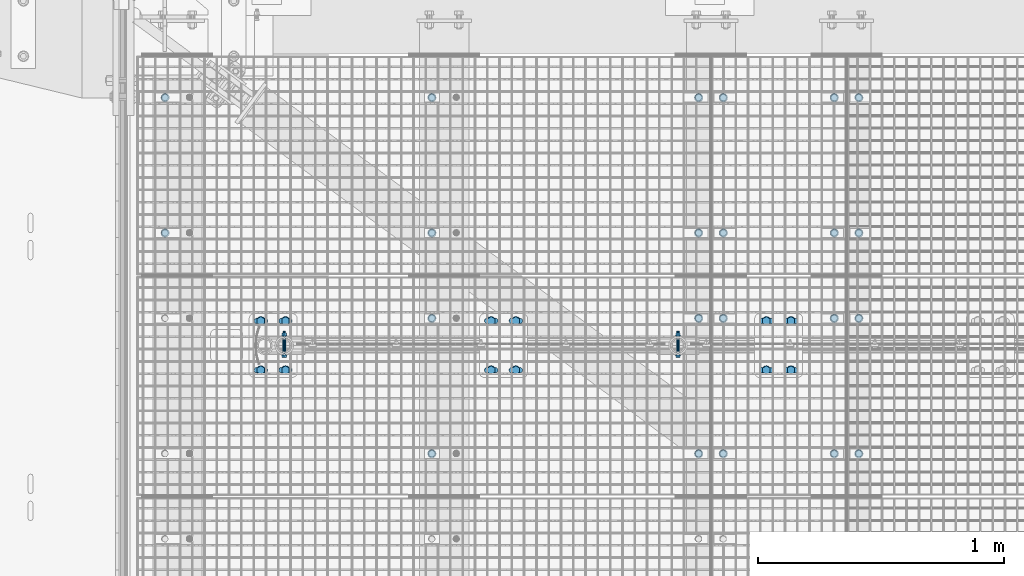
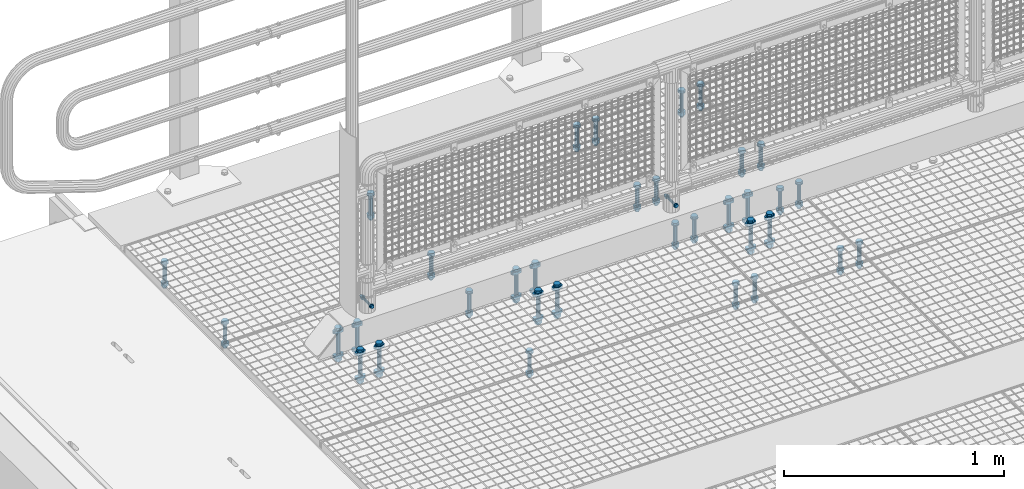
# One storey, part 31 of 1530: 16 mechanical fasteners.
"""IFC2X3 building model written with IfcOpenShell, lengths in millimetres."""

from ifc_helpers import new_model, si_unit, frame, origin_with_axes, place, context, subcontext, project, spatial, faceted_brep, source, transform, mapped, material, type_object, element, save


model = new_model("IFC2X3")

# Units and contexts
model_context = context("Model", 3, precision=1e-05, world=origin_with_axes())
body_context = subcontext(model_context, "Body", "Model", "MODEL_VIEW")
ifc_project = project(units=[si_unit("LENGTHUNIT", "METRE", prefix="MILLI"), si_unit("AREAUNIT", "SQUARE_METRE"), si_unit("VOLUMEUNIT", "CUBIC_METRE"), si_unit("MASSUNIT", "GRAM", prefix="KILO"), si_unit("TIMEUNIT", "SECOND"), si_unit("PLANEANGLEUNIT", "RADIAN"), si_unit("SOLIDANGLEUNIT", "STERADIAN"), si_unit("THERMODYNAMICTEMPERATUREUNIT", "DEGREE_CELSIUS"), si_unit("LUMINOUSINTENSITYUNIT", "LUMEN")], contexts=[model_context])

# Site, building, storey
site_placement = place(None, origin_with_axes())
site = spatial("IfcSite", under=ifc_project, at=site_placement, Name="Brattvåg", CompositionType="ELEMENT")
building_placement = place(site_placement, origin_with_axes())
building = spatial("IfcBuilding", under=site, at=building_placement, Name="Undefined", CompositionType="ELEMENT")
storey_placement = place(building_placement, origin_with_axes())
storey = spatial("IfcBuildingStorey", under=building, at=storey_placement, Name="Undefined", CompositionType="ELEMENT", Elevation=0.0)

# Mechanical fasteners
ifc_material = material(Name="8")
mechanical_fastener_type = type_object("IfcMechanicalFastenerType", Name="Bolt assembly")
shared_shape_1 = source(origin_with_axes(), body_context, "Body", "Brep", [
    faceted_brep([(17.3205080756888, -10.5, 0.0), (8.66025403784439, -10.5, 15.0), (-8.66025403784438, -10.5, 15.0), (-17.3205080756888, -10.5, 2.12115047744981e-15), (-8.66025403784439, -10.5, -15.0), (8.66025403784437, -10.5, -15.0), (8.66025403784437, 2.0, -15.0), (-8.66025403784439, 2.0, -15.0), (-17.3205080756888, 2.0, 2.12115047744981e-15), (-8.66025403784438, 2.0, 15.0), (8.66025403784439, 2.0, 15.0), (17.3205080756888, 2.0, 0.0), (10.0, 2.0, 0.0), (8.66025403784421, 2.0, 5.0000000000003), (4.9999999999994, 2.0, 8.66025403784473), (-1.03633598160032e-12, 2.0, 10.0), (-5.00000000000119, 2.0, 8.6602540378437), (-8.66025403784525, 2.0, 4.99999999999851), (-10.0, 2.0, -2.07267196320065e-12), (-8.66025403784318, 2.0, -5.00000000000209), (-4.99999999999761, 2.0, -8.66025403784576), (3.09790571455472e-12, 2.0, -10.0), (5.00000000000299, 2.0, -8.66025403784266), (8.66025403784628, 2.0, -4.99999999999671), (8.66025403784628, 142.0, -4.99999999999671), (5.00000000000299, 142.0, -8.66025403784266), (3.09790571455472e-12, 142.0, -10.0), (-4.99999999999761, 142.0, -8.66025403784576), (-8.66025403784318, 142.0, -5.00000000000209), (-10.0, 142.0, -2.07267196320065e-12), (-8.66025403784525, 142.0, 4.99999999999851), (-5.00000000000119, 142.0, 8.6602540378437), (-1.03633598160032e-12, 142.0, 10.0), (4.9999999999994, 142.0, 8.66025403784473), (8.66025403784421, 142.0, 5.0000000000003), (10.0, 142.0, 0.0), (18.5, 2.0, 0.0), (16.0214699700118, 2.0, 9.25000000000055), (9.2499999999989, 2.0, 16.0214699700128), (-1.9172215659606e-12, 2.0, 18.5), (-9.25000000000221, 2.0, 16.0214699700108), (-16.0214699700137, 2.0, 9.24999999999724), (-18.5, 2.0, -3.83444313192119e-12), (-16.0214699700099, 2.0, -9.25000000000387), (-9.24999999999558, 2.0, -16.0214699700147), (5.73112557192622e-12, 2.0, -18.5), (9.25000000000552, 2.0, -16.0214699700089), (16.0214699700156, 2.0, -9.24999999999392), (16.0214699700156, 5.0, -9.24999999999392), (9.25000000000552, 5.0, -16.0214699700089), (5.73112557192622e-12, 5.0, -18.5), (-9.24999999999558, 5.0, -16.0214699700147), (-16.0214699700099, 5.0, -9.25000000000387), (-18.5, 5.0, -3.83444313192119e-12), (-16.0214699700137, 5.0, 9.24999999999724), (-9.25000000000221, 5.0, 16.0214699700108), (-1.9172215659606e-12, 5.0, 18.5), (9.2499999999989, 5.0, 16.0214699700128), (16.0214699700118, 5.0, 9.25000000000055), (18.5, 5.0, 0.0), (18.5, 109.998931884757, 0.0), (16.0214699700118, 109.998931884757, 9.25000000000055), (9.2499999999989, 109.998931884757, 16.0214699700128), (-1.9172215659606e-12, 109.998931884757, 18.5), (-9.25000000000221, 109.998931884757, 16.0214699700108), (-16.0214699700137, 109.998931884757, 9.24999999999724), (-18.5, 109.998931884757, -3.83444313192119e-12), (-16.0214699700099, 109.998931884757, -9.25000000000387), (-9.24999999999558, 109.998931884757, -16.0214699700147), (5.73112557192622e-12, 109.998931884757, -18.5), (9.25000000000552, 109.998931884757, -16.0214699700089), (16.0214699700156, 109.998931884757, -9.24999999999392), (16.0214699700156, 112.998931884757, -9.24999999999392), (9.25000000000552, 112.998931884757, -16.0214699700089), (5.73112557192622e-12, 112.998931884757, -18.5), (-9.24999999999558, 112.998931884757, -16.0214699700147), (-16.0214699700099, 112.998931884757, -9.25000000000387), (-18.5, 112.998931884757, -3.83444313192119e-12), (-16.0214699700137, 112.998931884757, 9.24999999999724), (-9.25000000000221, 112.998931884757, 16.0214699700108), (-1.9172215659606e-12, 112.998931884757, 18.5), (9.2499999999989, 112.998931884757, 16.0214699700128), (16.0214699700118, 112.998931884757, 9.25000000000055), (18.5, 112.998931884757, 0.0), (17.3205080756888, 112.998931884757, 0.0), (8.66025403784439, 112.998931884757, 15.0), (-8.66025403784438, 112.998931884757, 15.0), (-17.3205080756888, 112.998931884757, 2.12115047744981e-15), (-8.66025403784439, 112.998931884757, -15.0), (8.66025403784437, 112.998931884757, -15.0), (8.66025403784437, 130.998931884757, -15.0), (-8.66025403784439, 130.998931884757, -15.0), (-17.3205080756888, 130.998931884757, 2.12115047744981e-15), (-8.66025403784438, 130.998931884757, 15.0), (8.66025403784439, 130.998931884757, 15.0), (17.3205080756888, 130.998931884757, 0.0)], [[[0, 1, 2, 3, 4, 5]], [[6, 7, 8, 9, 10, 11]], [[0, 11, 10, 1]], [[1, 10, 9, 2]], [[2, 9, 8, 3]], [[3, 8, 7, 4]], [[4, 7, 6, 5]], [[5, 6, 11, 0]], [[12, 13, 14, 15, 16, 17, 18, 19, 20, 21, 22, 23]], [[24, 25, 26, 27, 28, 29, 30, 31, 32, 33, 34, 35]], [[12, 35, 34, 13]], [[13, 34, 33, 14]], [[14, 33, 32, 15]], [[15, 32, 31, 16]], [[16, 31, 30, 17]], [[17, 30, 29, 18]], [[18, 29, 28, 19]], [[19, 28, 27, 20]], [[20, 27, 26, 21]], [[21, 26, 25, 22]], [[22, 25, 24, 23]], [[23, 24, 35, 12]], [[36, 37, 38, 39, 40, 41, 42, 43, 44, 45, 46, 47]], [[48, 49, 50, 51, 52, 53, 54, 55, 56, 57, 58, 59]], [[36, 59, 58, 37]], [[37, 58, 57, 38]], [[38, 57, 56, 39]], [[39, 56, 55, 40]], [[40, 55, 54, 41]], [[41, 54, 53, 42]], [[42, 53, 52, 43]], [[43, 52, 51, 44]], [[44, 51, 50, 45]], [[45, 50, 49, 46]], [[46, 49, 48, 47]], [[47, 48, 59, 36]], [[60, 61, 62, 63, 64, 65, 66, 67, 68, 69, 70, 71]], [[72, 73, 74, 75, 76, 77, 78, 79, 80, 81, 82, 83]], [[60, 83, 82, 61]], [[61, 82, 81, 62]], [[62, 81, 80, 63]], [[63, 80, 79, 64]], [[64, 79, 78, 65]], [[65, 78, 77, 66]], [[66, 77, 76, 67]], [[67, 76, 75, 68]], [[68, 75, 74, 69]], [[69, 74, 73, 70]], [[70, 73, 72, 71]], [[71, 72, 83, 60]], [[84, 85, 86, 87, 88, 89]], [[90, 91, 92, 93, 94, 95]], [[84, 95, 94, 85]], [[85, 94, 93, 86]], [[86, 93, 92, 87]], [[87, 92, 91, 88]], [[88, 91, 90, 89]], [[89, 90, 95, 84]]]),
])
for number, where, z_axis, x_axis, name in (
    (1, (2956.00477935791, 8121.91931152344, -25.0), (-1.0, 1.99999855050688e-09, 0.0), (0.0, 1.0, 0.0), "Bolt assembly"),
    (2, (2956.00477935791, 7224.91931152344, -25.0), (-1.0, 1.99999855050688e-09, 0.0), (0.0, 1.0, 0.0), "Bolt assembly"),
    (3, (2856.01522064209, 8121.91931152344, -25.0), (-1.0, 1.99999855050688e-09, 0.0), (0.0, 1.0, 0.0), "Bolt assembly"),
    (4, (2405.00477935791, 8121.91931152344, -25.0), (-1.0, 1.99999855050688e-09, 0.0), (0.0, 1.0, 0.0), "Bolt assembly"),
    (5, (2856.01522064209, 7224.91931152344, -25.0), (-1.0, 1.99999855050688e-09, 0.0), (0.0, 1.0, 0.0), "Bolt assembly"),
    (6, (2405.00477935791, 7224.91931152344, -25.0), (-1.0, 1.99999855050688e-09, 0.0), (0.0, 1.0, 0.0), "Bolt assembly"),
    (7, (137.004779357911, 8121.91931152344, -25.0), (-1.0, 1.99999855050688e-09, 0.0), (0.0, 1.0, 0.0), "Bolt assembly"),
    (8, (1221.01192543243, 8121.99, -25.0), (-1.0, 1.99999855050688e-09, 0.0), (0.0, 1.0, 0.0), "Bolt assembly"),
    (9, (2305.01487731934, 8121.9204864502, -25.0), (-1.0, 1.99999855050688e-09, 0.0), (0.0, 1.0, 0.0), "Bolt assembly"),
    (10, (1221.01192543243, 7224.99, -25.0), (-1.0, 1.99999855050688e-09, 0.0), (0.0, 1.0, 0.0), "Bolt assembly"),
    (11, (2305.01487731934, 7224.9204864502, -25.0), (-1.0, 1.99999855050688e-09, 0.0), (0.0, 1.0, 0.0), "Bolt assembly"),
):
    element("IfcMechanicalFastener", number, at=place(storey_placement, frame(where, z_axis=z_axis, x_axis=x_axis)), inside=storey, type_object=mechanical_fastener_type, material=ifc_material, Name=name, NominalDiameter=20.0, NominalLength=140.0, context=body_context, shape_type="MappedRepresentation", body=[
        mapped(shared_shape_1, transform((0.0, 0.0, 0.0))),
        mapped(shared_shape_1, transform((549.999999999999, 0.0, 0.0))),
    ])
shared_shape_2 = source(origin_with_axes(), body_context, "Body", "Brep", [
    faceted_brep([(17.3205080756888, -15.5000000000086, 0.0), (8.66025403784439, -15.5000000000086, 15.0), (-8.66025403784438, -15.5000000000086, 15.0), (-17.3205080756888, -15.5000000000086, 2.12115047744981e-15), (-8.66025403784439, -15.5000000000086, -15.0), (8.66025403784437, -15.5000000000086, -15.0), (8.66025403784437, -3.00000000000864, -15.0), (-8.66025403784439, -3.00000000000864, -15.0), (-17.3205080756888, -3.00000000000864, 2.12115047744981e-15), (-8.66025403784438, -3.00000000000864, 15.0), (8.66025403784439, -3.00000000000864, 15.0), (17.3205080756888, -3.00000000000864, 0.0), (10.0, -3.00000000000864, 0.0), (8.66025403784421, -3.00000000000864, 5.0000000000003), (4.9999999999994, -3.00000000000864, 8.66025403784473), (-1.03633598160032e-12, -3.00000000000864, 10.0), (-5.00000000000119, -3.00000000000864, 8.6602540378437), (-8.66025403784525, -3.00000000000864, 4.99999999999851), (-10.0, -3.00000000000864, -2.07267196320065e-12), (-8.66025403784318, -3.00000000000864, -5.00000000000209), (-4.99999999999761, -3.00000000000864, -8.66025403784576), (3.09790571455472e-12, -3.00000000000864, -10.0), (5.00000000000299, -3.00000000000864, -8.66025403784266), (8.66025403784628, -3.00000000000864, -4.99999999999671), (8.66025403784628, 176.999999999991, -4.99999999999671), (5.00000000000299, 176.999999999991, -8.66025403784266), (3.09790571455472e-12, 176.999999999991, -10.0), (-4.99999999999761, 176.999999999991, -8.66025403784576), (-8.66025403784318, 176.999999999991, -5.00000000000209), (-10.0, 176.999999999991, -2.07267196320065e-12), (-8.66025403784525, 176.999999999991, 4.99999999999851), (-5.00000000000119, 176.999999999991, 8.6602540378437), (-1.03633598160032e-12, 176.999999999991, 10.0), (4.9999999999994, 176.999999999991, 8.66025403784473), (8.66025403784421, 176.999999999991, 5.0000000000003), (10.0, 176.999999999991, 0.0), (18.5, -3.00000000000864, 0.0), (16.0214699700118, -3.00000000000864, 9.25000000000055), (9.2499999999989, -3.00000000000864, 16.0214699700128), (-1.9172215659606e-12, -3.00000000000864, 18.5), (-9.25000000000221, -3.00000000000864, 16.0214699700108), (-16.0214699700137, -3.00000000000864, 9.24999999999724), (-18.5, -3.00000000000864, -3.83444313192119e-12), (-16.0214699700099, -3.00000000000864, -9.25000000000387), (-9.24999999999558, -3.00000000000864, -16.0214699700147), (5.73112557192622e-12, -3.00000000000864, -18.5), (9.25000000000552, -3.00000000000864, -16.0214699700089), (16.0214699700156, -3.00000000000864, -9.24999999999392), (16.0214699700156, -8.64019966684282e-12, -9.24999999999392), (9.25000000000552, -8.64019966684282e-12, -16.0214699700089), (5.73112557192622e-12, -8.64019966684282e-12, -18.5), (-9.24999999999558, -8.64019966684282e-12, -16.0214699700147), (-16.0214699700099, -8.64019966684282e-12, -9.25000000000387), (-18.5, -8.64019966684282e-12, -3.83444313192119e-12), (-16.0214699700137, -8.64019966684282e-12, 9.24999999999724), (-9.25000000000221, -8.64019966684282e-12, 16.0214699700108), (-1.9172215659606e-12, -8.64019966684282e-12, 18.5), (9.2499999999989, -8.64019966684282e-12, 16.0214699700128), (16.0214699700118, -8.64019966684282e-12, 9.25000000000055), (18.5, -8.64019966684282e-12, 0.0), (18.5, 149.999999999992, 0.0), (16.0214699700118, 149.999999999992, 9.25000000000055), (9.2499999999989, 149.999999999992, 16.0214699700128), (-1.9172215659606e-12, 149.999999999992, 18.5), (-9.25000000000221, 149.999999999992, 16.0214699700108), (-16.0214699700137, 149.999999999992, 9.24999999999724), (-18.5, 149.999999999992, -3.83444313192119e-12), (-16.0214699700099, 149.999999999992, -9.25000000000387), (-9.24999999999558, 149.999999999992, -16.0214699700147), (5.73112557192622e-12, 149.999999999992, -18.5), (9.25000000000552, 149.999999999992, -16.0214699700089), (16.0214699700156, 149.999999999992, -9.24999999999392), (16.0214699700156, 152.999999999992, -9.24999999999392), (9.25000000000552, 152.999999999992, -16.0214699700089), (5.73112557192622e-12, 152.999999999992, -18.5), (-9.24999999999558, 152.999999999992, -16.0214699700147), (-16.0214699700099, 152.999999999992, -9.25000000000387), (-18.5, 152.999999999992, -3.83444313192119e-12), (-16.0214699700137, 152.999999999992, 9.24999999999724), (-9.25000000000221, 152.999999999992, 16.0214699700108), (-1.9172215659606e-12, 152.999999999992, 18.5), (9.2499999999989, 152.999999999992, 16.0214699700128), (16.0214699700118, 152.999999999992, 9.25000000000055), (18.5, 152.999999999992, 0.0), (17.3205080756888, 152.999999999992, 0.0), (8.66025403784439, 152.999999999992, 15.0), (-8.66025403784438, 152.999999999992, 15.0), (-17.3205080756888, 152.999999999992, 2.12115047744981e-15), (-8.66025403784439, 152.999999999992, -15.0), (8.66025403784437, 152.999999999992, -15.0), (8.66025403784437, 170.999999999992, -15.0), (-8.66025403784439, 170.999999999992, -15.0), (-17.3205080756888, 170.999999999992, 2.12115047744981e-15), (-8.66025403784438, 170.999999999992, 15.0), (8.66025403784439, 170.999999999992, 15.0), (17.3205080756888, 170.999999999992, 0.0)], [[[0, 1, 2, 3, 4, 5]], [[6, 7, 8, 9, 10, 11]], [[0, 11, 10, 1]], [[1, 10, 9, 2]], [[2, 9, 8, 3]], [[3, 8, 7, 4]], [[4, 7, 6, 5]], [[5, 6, 11, 0]], [[12, 13, 14, 15, 16, 17, 18, 19, 20, 21, 22, 23]], [[24, 25, 26, 27, 28, 29, 30, 31, 32, 33, 34, 35]], [[12, 35, 34, 13]], [[13, 34, 33, 14]], [[14, 33, 32, 15]], [[15, 32, 31, 16]], [[16, 31, 30, 17]], [[17, 30, 29, 18]], [[18, 29, 28, 19]], [[19, 28, 27, 20]], [[20, 27, 26, 21]], [[21, 26, 25, 22]], [[22, 25, 24, 23]], [[23, 24, 35, 12]], [[36, 37, 38, 39, 40, 41, 42, 43, 44, 45, 46, 47]], [[48, 49, 50, 51, 52, 53, 54, 55, 56, 57, 58, 59]], [[36, 59, 58, 37]], [[37, 58, 57, 38]], [[38, 57, 56, 39]], [[39, 56, 55, 40]], [[40, 55, 54, 41]], [[41, 54, 53, 42]], [[42, 53, 52, 43]], [[43, 52, 51, 44]], [[44, 51, 50, 45]], [[45, 50, 49, 46]], [[46, 49, 48, 47]], [[47, 48, 59, 36]], [[60, 61, 62, 63, 64, 65, 66, 67, 68, 69, 70, 71]], [[72, 73, 74, 75, 76, 77, 78, 79, 80, 81, 82, 83]], [[60, 83, 82, 61]], [[61, 82, 81, 62]], [[62, 81, 80, 63]], [[63, 80, 79, 64]], [[64, 79, 78, 65]], [[65, 78, 77, 66]], [[66, 77, 76, 67]], [[67, 76, 75, 68]], [[68, 75, 74, 69]], [[69, 74, 73, 70]], [[70, 73, 72, 71]], [[71, 72, 83, 60]], [[84, 85, 86, 87, 88, 89]], [[90, 91, 92, 93, 94, 95]], [[84, 95, 94, 85]], [[85, 94, 93, 86]], [[86, 93, 92, 87]], [[87, 92, 91, 88]], [[88, 91, 90, 89]], [[89, 90, 95, 84]]]),
    faceted_brep([(11.0, 0.0999999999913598, 16.5), (10.162674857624, 0.0999999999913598, 20.7095177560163), (7.77817459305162, 0.0999999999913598, 24.2781745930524), (-1.13996957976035e-12, 0.0999999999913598, 27.5), (-5.50000000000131, 0.0999999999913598, 26.0262794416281), (-9.52627944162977, 0.0999999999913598, 21.9999999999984), (-11.0, 0.0999999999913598, 16.4999999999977), (-11.0, 0.0999999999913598, -16.5000000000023), (-9.5262794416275, 0.0999999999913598, -22.0000000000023), (-5.49999999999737, 0.0999999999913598, -26.0262794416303), (3.40769628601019e-12, 0.0999999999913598, -27.5), (5.50000000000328, 0.0999999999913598, -26.0262794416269), (9.52627944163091, 0.0999999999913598, -21.9999999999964), (11.0, 0.0999999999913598, -16.4999999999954), (11.0, 15.0999999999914, -16.4999999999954), (9.52627944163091, 15.0999999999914, -21.9999999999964), (5.50000000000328, 15.0999999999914, -26.0262794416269), (3.40769628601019e-12, 15.0999999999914, -27.5), (-5.49999999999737, 15.0999999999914, -26.0262794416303), (-9.5262794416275, 15.0999999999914, -22.0000000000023), (-11.0, 15.0999999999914, -16.5000000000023), (-11.0, 15.0999999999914, 16.4999999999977), (-9.52627944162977, 15.0999999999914, 21.9999999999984), (-5.50000000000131, 15.0999999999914, 26.0262794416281), (-1.13996957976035e-12, 15.0999999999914, 27.5), (4.2095177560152, 15.0999999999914, 26.6626748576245), (7.77817459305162, 15.0999999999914, 24.2781745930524), (10.162674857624, 15.0999999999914, 20.7095177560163), (11.0, 15.0999999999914, 16.5), (4.2095177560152, 0.0999999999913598, 26.6626748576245), (11.0, 134.899999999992, 16.5), (10.162674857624, 134.899999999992, 20.7095177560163), (7.77817459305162, 134.899999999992, 24.2781745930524), (-1.13996957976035e-12, 134.899999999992, 27.5), (-5.50000000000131, 134.899999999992, 26.0262794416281), (-9.52627944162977, 134.899999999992, 21.9999999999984), (-11.0, 134.899999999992, 16.4999999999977), (-11.0, 134.899999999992, -16.5000000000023), (-9.5262794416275, 134.899999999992, -22.0000000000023), (-5.49999999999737, 134.899999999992, -26.0262794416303), (3.40769628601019e-12, 134.899999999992, -27.5), (5.50000000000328, 134.899999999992, -26.0262794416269), (9.52627944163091, 134.899999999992, -21.9999999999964), (11.0, 134.899999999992, -16.4999999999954), (11.0, 149.999999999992, -16.4999999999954), (9.52627944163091, 149.999999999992, -21.9999999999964), (5.50000000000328, 149.999999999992, -26.0262794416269), (3.40769628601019e-12, 149.999999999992, -27.5), (-5.49999999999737, 149.999999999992, -26.0262794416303), (-9.5262794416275, 149.999999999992, -22.0000000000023), (-11.0, 149.999999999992, -16.5000000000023), (-11.0, 149.999999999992, 16.4999999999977), (-9.52627944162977, 149.999999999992, 21.9999999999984), (-5.50000000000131, 149.999999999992, 26.0262794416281), (-1.13996957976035e-12, 149.999999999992, 27.5), (4.2095177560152, 149.999999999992, 26.6626748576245), (7.77817459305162, 149.999999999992, 24.2781745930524), (10.162674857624, 149.999999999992, 20.7095177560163), (11.0, 149.999999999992, 16.5), (4.2095177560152, 134.899999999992, 26.6626748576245)], [[[0, 1, 2, 3, 4, 5, 6, 7, 8, 9, 10, 11, 12, 13]], [[14, 15, 16, 17, 18, 19, 20, 21, 22, 23, 24, 25, 26, 27, 28]], [[0, 28, 27, 1]], [[1, 27, 26, 2]], [[2, 26, 25, 29]], [[29, 25, 24, 3]], [[3, 24, 23, 4]], [[4, 23, 22, 5]], [[5, 22, 21, 6]], [[6, 21, 20, 7]], [[7, 20, 19, 8]], [[8, 19, 18, 9]], [[9, 18, 17, 10]], [[10, 17, 16, 11]], [[11, 16, 15, 12]], [[12, 15, 14, 13]], [[13, 14, 28, 0]], [[30, 31, 32, 33, 34, 35, 36, 37, 38, 39, 40, 41, 42, 43]], [[44, 45, 46, 47, 48, 49, 50, 51, 52, 53, 54, 55, 56, 57, 58]], [[30, 58, 57, 31]], [[31, 57, 56, 32]], [[32, 56, 55, 59]], [[59, 55, 54, 33]], [[33, 54, 53, 34]], [[34, 53, 52, 35]], [[35, 52, 51, 36]], [[36, 51, 50, 37]], [[37, 50, 49, 38]], [[38, 49, 48, 39]], [[39, 48, 47, 40]], [[40, 47, 46, 41]], [[41, 46, 45, 42]], [[42, 45, 44, 43]], [[43, 44, 58, 30]]]),
])
for number, where, z_axis, x_axis, name in (
    (12, (575.999679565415, 7564.4994392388, 15.0000839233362), (-1.0, 1.99999855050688e-09, 0.0), (0.0, 1.0, 0.0), "Bolt assembly"),
    (13, (1511.99967956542, 7564.4994392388, 15.0000839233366), (-1.0, 1.99999855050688e-09, 0.0), (0.0, 1.0, 0.0), "Bolt assembly"),
    (14, (2629.99967956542, 7564.4994392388, 15.0000839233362), (-1.0, 1.99999855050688e-09, 0.0), (0.0, 1.0, 0.0), "Bolt assembly"),
):
    element("IfcMechanicalFastener", number, at=place(storey_placement, frame(where, z_axis=z_axis, x_axis=x_axis)), inside=storey, type_object=mechanical_fastener_type, material=ifc_material, Name=name, NominalDiameter=20.0, NominalLength=180.0, context=body_context, shape_type="MappedRepresentation", body=[
        mapped(shared_shape_2, transform((0.0, 0.0, -50.0))),
        mapped(shared_shape_2, transform((200.0, 0.0, -50.0))),
        mapped(shared_shape_2, transform((0.0, 0.0, 50.0))),
        mapped(shared_shape_2, transform((200.0, 0.0, 50.0))),
    ])
shared_shape_3 = source(origin_with_axes(), body_context, "Body", "Brep", [
    faceted_brep([(10.3923048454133, -9.99524588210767, 0.0), (5.19615242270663, -9.99524588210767, 9.0), (-5.19615242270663, -9.99524588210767, 9.0), (-10.3923048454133, -9.99524588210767, 1.27269028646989e-15), (-5.19615242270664, -9.99524588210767, -9.0), (5.19615242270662, -9.99524588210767, -9.0), (5.19615242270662, -2.49524588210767, -9.0), (-5.19615242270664, -2.49524588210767, -9.0), (-10.3923048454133, -2.49524588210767, 1.27269028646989e-15), (-5.19615242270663, -2.49524588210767, 9.0), (5.19615242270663, -2.49524588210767, 9.0), (10.3923048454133, -2.49524588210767, 0.0), (6.0, -2.49524588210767, 0.0), (5.19615242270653, -2.49524588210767, 3.00000000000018), (2.99999999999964, -2.49524588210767, 5.19615242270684), (-6.21801588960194e-13, -2.49524588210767, 6.0), (-3.00000000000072, -2.49524588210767, 5.19615242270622), (-5.19615242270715, -2.49524588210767, 2.9999999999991), (-6.0, -2.49524588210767, -1.24360317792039e-12), (-5.19615242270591, -2.49524588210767, -3.00000000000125), (-2.99999999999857, -2.49524588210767, -5.19615242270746), (1.85874342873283e-12, -2.49524588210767, -6.0), (3.00000000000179, -2.49524588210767, -5.1961524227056), (5.19615242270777, -2.49524588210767, -2.99999999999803), (5.19615242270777, 97.5047541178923, -2.99999999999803), (3.00000000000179, 97.5047541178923, -5.1961524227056), (1.85874342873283e-12, 97.5047541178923, -6.0), (-2.99999999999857, 97.5047541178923, -5.19615242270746), (-5.19615242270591, 97.5047541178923, -3.00000000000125), (-6.0, 97.5047541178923, -1.24360317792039e-12), (-5.19615242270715, 97.5047541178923, 2.9999999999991), (-3.00000000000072, 97.5047541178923, 5.19615242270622), (-6.21801588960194e-13, 97.5047541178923, 6.0), (2.99999999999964, 97.5047541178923, 5.19615242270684), (5.19615242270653, 97.5047541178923, 3.00000000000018), (6.0, 97.5047541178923, 0.0), (12.0, -2.49524588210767, 0.0), (10.3923048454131, -2.49524588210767, 6.00000000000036), (5.99999999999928, -2.49524588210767, 10.3923048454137), (-1.24360317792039e-12, -2.49524588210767, 12.0), (-6.00000000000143, -2.49524588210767, 10.3923048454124), (-10.3923048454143, -2.49524588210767, 5.99999999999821), (-12.0, -2.49524588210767, -2.48720635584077e-12), (-10.3923048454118, -2.49524588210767, -6.00000000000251), (-5.99999999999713, -2.49524588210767, -10.3923048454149), (3.71748685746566e-12, -2.49524588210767, -12.0), (6.00000000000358, -2.49524588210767, -10.3923048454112), (10.3923048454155, -2.49524588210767, -5.99999999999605), (10.3923048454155, 0.00475411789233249, -5.99999999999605), (6.00000000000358, 0.00475411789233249, -10.3923048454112), (3.71748685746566e-12, 0.00475411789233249, -12.0), (-5.99999999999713, 0.00475411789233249, -10.3923048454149), (-10.3923048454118, 0.00475411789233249, -6.00000000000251), (-12.0, 0.00475411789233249, -2.48720635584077e-12), (-10.3923048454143, 0.00475411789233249, 5.99999999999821), (-6.00000000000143, 0.00475411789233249, 10.3923048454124), (-1.24360317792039e-12, 0.00475411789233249, 12.0), (5.99999999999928, 0.00475411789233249, 10.3923048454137), (10.3923048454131, 0.00475411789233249, 6.00000000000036), (12.0, 0.00475411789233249, 0.0), (12.0, 76.1029826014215, 0.0), (10.3923048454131, 76.1029826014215, 6.00000000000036), (5.99999999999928, 76.1029826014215, 10.3923048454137), (-1.24360317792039e-12, 76.1029826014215, 12.0), (-6.00000000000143, 76.1029826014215, 10.3923048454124), (-10.3923048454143, 76.1029826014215, 5.99999999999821), (-12.0, 76.1029826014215, -2.48720635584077e-12), (-10.3923048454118, 76.1029826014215, -6.00000000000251), (-5.99999999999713, 76.1029826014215, -10.3923048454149), (3.71748685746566e-12, 76.1029826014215, -12.0), (6.00000000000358, 76.1029826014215, -10.3923048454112), (10.3923048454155, 76.1029826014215, -5.99999999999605), (10.3923048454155, 78.6029826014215, -5.99999999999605), (6.00000000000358, 78.6029826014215, -10.3923048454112), (3.71748685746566e-12, 78.6029826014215, -12.0), (-5.99999999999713, 78.6029826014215, -10.3923048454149), (-10.3923048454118, 78.6029826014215, -6.00000000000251), (-12.0, 78.6029826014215, -2.48720635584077e-12), (-10.3923048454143, 78.6029826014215, 5.99999999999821), (-6.00000000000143, 78.6029826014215, 10.3923048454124), (-1.24360317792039e-12, 78.6029826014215, 12.0), (5.99999999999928, 78.6029826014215, 10.3923048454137), (10.3923048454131, 78.6029826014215, 6.00000000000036), (12.0, 78.6029826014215, 0.0), (10.3923048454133, 78.6029826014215, 0.0), (5.19615242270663, 78.6029826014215, 9.0), (-5.19615242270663, 78.6029826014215, 9.0), (-10.3923048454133, 78.6029826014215, 1.27269028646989e-15), (-5.19615242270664, 78.6029826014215, -9.0), (5.19615242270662, 78.6029826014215, -9.0), (5.19615242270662, 89.4029827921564, -9.0), (-5.19615242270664, 89.4029827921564, -9.0), (-10.3923048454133, 89.4029827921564, 1.27269028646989e-15), (-5.19615242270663, 89.4029827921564, 9.0), (5.19615242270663, 89.4029827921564, 9.0), (10.3923048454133, 89.4029827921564, 0.0)], [[[0, 1, 2, 3, 4, 5]], [[6, 7, 8, 9, 10, 11]], [[0, 11, 10, 1]], [[1, 10, 9, 2]], [[2, 9, 8, 3]], [[3, 8, 7, 4]], [[4, 7, 6, 5]], [[5, 6, 11, 0]], [[12, 13, 14, 15, 16, 17, 18, 19, 20, 21, 22, 23]], [[24, 25, 26, 27, 28, 29, 30, 31, 32, 33, 34, 35]], [[12, 35, 34, 13]], [[13, 34, 33, 14]], [[14, 33, 32, 15]], [[15, 32, 31, 16]], [[16, 31, 30, 17]], [[17, 30, 29, 18]], [[18, 29, 28, 19]], [[19, 28, 27, 20]], [[20, 27, 26, 21]], [[21, 26, 25, 22]], [[22, 25, 24, 23]], [[23, 24, 35, 12]], [[36, 37, 38, 39, 40, 41, 42, 43, 44, 45, 46, 47]], [[48, 49, 50, 51, 52, 53, 54, 55, 56, 57, 58, 59]], [[36, 59, 58, 37]], [[37, 58, 57, 38]], [[38, 57, 56, 39]], [[39, 56, 55, 40]], [[40, 55, 54, 41]], [[41, 54, 53, 42]], [[42, 53, 52, 43]], [[43, 52, 51, 44]], [[44, 51, 50, 45]], [[45, 50, 49, 46]], [[46, 49, 48, 47]], [[47, 48, 59, 36]], [[60, 61, 62, 63, 64, 65, 66, 67, 68, 69, 70, 71]], [[72, 73, 74, 75, 76, 77, 78, 79, 80, 81, 82, 83]], [[60, 83, 82, 61]], [[61, 82, 81, 62]], [[62, 81, 80, 63]], [[63, 80, 79, 64]], [[64, 79, 78, 65]], [[65, 78, 77, 66]], [[66, 77, 76, 67]], [[67, 76, 75, 68]], [[68, 75, 74, 69]], [[69, 74, 73, 70]], [[70, 73, 72, 71]], [[71, 72, 83, 60]], [[84, 85, 86, 87, 88, 89]], [[90, 91, 92, 93, 94, 95]], [[84, 95, 94, 85]], [[85, 94, 93, 86]], [[86, 93, 92, 87]], [[87, 92, 91, 88]], [[88, 91, 90, 89]], [[89, 90, 95, 84]]]),
    faceted_brep([(6.5, 0.104754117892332, 0.0), (5.62916512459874, 0.104754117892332, 3.25000000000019), (3.24999999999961, 0.104754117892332, 5.62916512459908), (-6.7361838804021e-13, 0.104754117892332, 6.5), (-3.25000000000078, 0.104754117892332, 5.6291651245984), (-5.62916512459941, 0.104754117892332, 3.24999999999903), (-6.5, 0.104754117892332, -1.34723677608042e-12), (-5.62916512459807, 0.104754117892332, -3.25000000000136), (-3.24999999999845, 0.104754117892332, -5.62916512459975), (2.01363871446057e-12, 0.104754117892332, -6.5), (3.25000000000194, 0.104754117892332, -5.62916512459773), (5.62916512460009, 0.104754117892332, -3.24999999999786), (5.62916512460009, 76.2029826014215, -3.24999999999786), (3.25000000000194, 76.2029826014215, -5.62916512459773), (2.01363871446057e-12, 76.2029826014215, -6.5), (-3.24999999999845, 76.2029826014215, -5.62916512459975), (-5.62916512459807, 76.2029826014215, -3.25000000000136), (-6.5, 76.2029826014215, -1.34723677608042e-12), (-5.62916512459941, 76.2029826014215, 3.24999999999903), (-3.25000000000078, 76.2029826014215, 5.6291651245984), (-6.7361838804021e-13, 76.2029826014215, 6.5), (3.24999999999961, 76.2029826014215, 5.62916512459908), (5.62916512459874, 76.2029826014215, 3.25000000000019), (6.5, 76.2029826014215, 0.0), (6.5, 7.80509808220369, 0.0), (5.62916512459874, 7.80509808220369, 3.25000000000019), (3.24999999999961, 7.80509808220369, 5.62916512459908), (-6.7361838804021e-13, 7.80509808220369, 6.5), (-3.25000000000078, 7.80509808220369, 5.6291651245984), (-5.62916512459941, 7.80509808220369, 3.24999999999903), (-6.5, 7.80509808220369, -1.34723677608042e-12), (-5.62916512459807, 7.80509808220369, -3.25000000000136), (-3.24999999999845, 7.80509808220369, -5.62916512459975), (2.01363871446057e-12, 7.80509808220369, -6.5), (3.25000000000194, 7.80509808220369, -5.62916512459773), (5.62916512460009, 7.80509808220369, -3.24999999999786), (5.62916512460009, 68.2033458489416, -3.24999999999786), (3.25000000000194, 68.2033458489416, -5.62916512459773), (2.01363871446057e-12, 68.2033458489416, -6.5), (-3.24999999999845, 68.2033458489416, -5.62916512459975), (-5.62916512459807, 68.2033458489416, -3.25000000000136), (-6.5, 68.2033458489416, -1.34723677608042e-12), (-5.62916512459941, 68.2033458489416, 3.24999999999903), (-3.25000000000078, 68.2033458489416, 5.6291651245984), (-6.7361838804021e-13, 68.2033458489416, 6.5), (3.24999999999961, 68.2033458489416, 5.62916512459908), (5.62916512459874, 68.2033458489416, 3.25000000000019), (6.5, 68.2033458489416, 0.0)], [[[0, 1, 2, 3, 4, 5, 6, 7, 8, 9, 10, 11]], [[12, 13, 14, 15, 16, 17, 18, 19, 20, 21, 22, 23]], [[0, 23, 22, 1]], [[1, 22, 21, 2]], [[2, 21, 20, 3]], [[3, 20, 19, 4]], [[4, 19, 18, 5]], [[5, 18, 17, 6]], [[6, 17, 16, 7]], [[7, 16, 15, 8]], [[8, 15, 14, 9]], [[9, 14, 13, 10]], [[10, 13, 12, 11]], [[11, 12, 23, 0]], [[24, 25, 26, 27, 28, 29, 30, 31, 32, 33, 34, 35]], [[36, 37, 38, 39, 40, 41, 42, 43, 44, 45, 46, 47]], [[24, 47, 46, 25]], [[25, 46, 45, 26]], [[26, 45, 44, 27]], [[27, 44, 43, 28]], [[28, 43, 42, 29]], [[29, 42, 41, 30]], [[30, 41, 40, 31]], [[31, 40, 39, 32]], [[32, 39, 38, 33]], [[33, 38, 37, 34]], [[34, 37, 36, 35]], [[35, 36, 47, 24]]]),
])
for number, where, z_axis, x_axis, name in (
    (15, (620.99510448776, 7626.4447316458, 194.999988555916), (1.0, 0.0, 0.0), (0.0, 0.0, -1.0), "Bolt assembly"),
    (16, (2220.99510448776, 7626.4447316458, 194.999988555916), (1.0, 0.0, 0.0), (0.0, 0.0, -1.0), "Bolt assembly"),
):
    element("IfcMechanicalFastener", number, at=place(storey_placement, frame(where, z_axis=z_axis, x_axis=x_axis)), inside=storey, type_object=mechanical_fastener_type, material=ifc_material, Name=name, NominalDiameter=12.0, NominalLength=100.0, context=body_context, shape_type="MappedRepresentation", body=[
        mapped(shared_shape_3, transform((0.0, 0.0, 0.0))),
    ])

save(model, "model.ifc")
